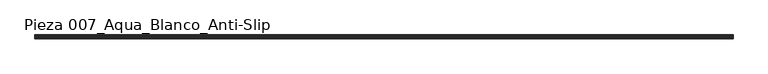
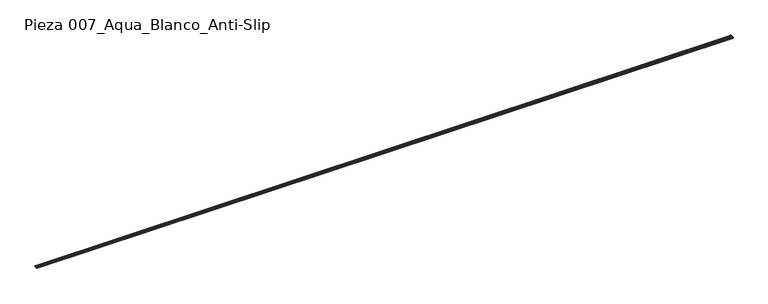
"""IFC4 building model written with IfcOpenShell, lengths in millimetres: slab geometry, ROSA GRES_007 : Pieza 007_Aqua_Blanco_Anti-Slip."""

from ifc_helpers import new_model, si_unit, point, frame, frame_2d, origin, place, context, project, spatial, polyline, circle_curve, trimmed, segment, composite_curve, outline, extrude, source, transform, mapped, element, save


def pieza_007_aqua_blanco_anti_slip_3bc438a8(model_context):
    return source(origin(), model_context, "Body", "SweptSolid", [
        extrude(outline(composite_curve([segment(trimmed(circle_curve(frame_2d((-25.9545763, 173.0767428)), 11.6464304), [point((-14.3742659, 174.3159971))], [point((-37.1820416, 176.172444))], True, "CARTESIAN"), True, "CONTINUOUS"), segment(polyline([(-37.1820416, 176.172444), (-33.8762309, 200.4746837), (-29.9345538, 200.1538709)]), True, "CONTINUOUS"), segment(trimmed(circle_curve(frame_2d((-27.3971937, 201.142641)), 2.7232081), [point((-29.9345538, 200.1538709))], [point((-24.7247274, 200.6193952))], True, "CARTESIAN"), True, "CONTINUOUS"), segment(trimmed(circle_curve(frame_2d((-20.3008643, 202.7650351)), 4.9167404), [point((-24.7247274, 200.6193952))], [point((-16.9364731, 199.1796191))], True, "CARTESIAN"), True, "CONTINUOUS"), segment(polyline([(-16.9364731, 199.1796191), (-12.7748841, 198.875801)]), True, "CONTINUOUS"), segment(trimmed(circle_curve(frame_2d((-15.1536138, 183.7870899)), 15.2750633), [point((-12.7748841, 198.875801))], [point((0.0710994, 182.547869))], False, "CARTESIAN"), True, "CONTINUOUS"), segment(polyline([(0.0710994, 182.547869), (-0.6896004, 173.202129), (-14.3742659, 174.3159971)]), True, "CONTINUOUS")], self_intersect=False)), frame((0.0, 0.0, 0.0), z_axis=(1.0, 0.0, 0.0), x_axis=(0.0, 1.0, 0.0)), (0.0, 0.0, 1.0), 20529.8565596),
        extrude(outline(composite_curve([segment(trimmed(circle_curve(frame_2d((-91.1625174, 167.3774726)), 22.5372595), [point((-71.8498608, 178.9942432))], [point((-108.342302, 181.9645582))], True, "CARTESIAN"), True, "CONTINUOUS"), segment(polyline([(-108.342302, 181.9645582), (-119.2900344, 182.8556525), (-117.4809059, 205.0820876), (-115.5338707, 204.9236084), (-115.3491545, 207.1930072), (-113.0660814, 207.0070959)]), True, "CONTINUOUS"), segment(trimmed(circle_curve(frame_2d((-109.1074243, 209.7932705)), 4.8408403), [point((-113.0660814, 207.0070959))], [point((-105.2742048, 206.836894))], True, "CARTESIAN"), True, "CONTINUOUS"), segment(trimmed(circle_curve(frame_2d((-100.9933064, 209.1504161)), 4.8660534), [point((-105.2742048, 206.836894))], [point((-97.1292049, 206.1928503))], True, "CARTESIAN"), True, "CONTINUOUS"), segment(trimmed(circle_curve(frame_2d((-92.9342908, 208.0451437)), 4.5856619), [point((-97.1292049, 206.1928503))], [point((-89.0833894, 205.555394))], True, "CARTESIAN"), True, "CONTINUOUS"), segment(trimmed(circle_curve(frame_2d((-84.8780848, 207.3839748)), 4.5856619), [point((-89.0833894, 205.555394))], [point((-81.0271834, 204.8942251))], True, "CARTESIAN"), True, "CONTINUOUS"), segment(trimmed(circle_curve(frame_2d((-76.8218788, 206.722806)), 4.5856619), [point((-81.0271834, 204.8942251))], [point((-73.3820924, 203.6902881))], True, "CARTESIAN"), True, "CONTINUOUS"), segment(polyline([(-73.3820924, 203.6902881), (-69.6579726, 203.3871621), (-69.3023399, 198.236672)]), True, "CONTINUOUS"), segment(trimmed(circle_curve(frame_2d((-57.0579989, 199.0821231)), 12.2734948), [point((-69.3023399, 198.236672))], [point((-61.867532, 187.7902205))], True, "CARTESIAN"), True, "CONTINUOUS"), segment(polyline([(-61.867532, 187.7902205), (-43.8250834, 186.3216491)]), True, "CONTINUOUS"), segment(trimmed(circle_curve(frame_2d((-43.5817022, 189.3117604)), 3.0), [point((-43.8250834, 186.3216491))], [point((-40.9402045, 187.8896178))], True, "CARTESIAN"), True, "CONTINUOUS"), segment(trimmed(circle_curve(frame_2d((-106.9597263, 233.2212806)), 80.084561), [point((-40.9402045, 187.8896178))], [point((-33.8762309, 200.4746837))], True, "CARTESIAN"), True, "CONTINUOUS"), segment(polyline([(-33.8762309, 200.4746837), (-37.1820416, 176.172444), (-71.8498608, 178.9942432)]), True, "CONTINUOUS")], self_intersect=False)), frame((0.0, 0.0, 0.0), z_axis=(1.0, 0.0, 0.0), x_axis=(0.0, 1.0, 0.0)), (0.0, 0.0, 1.0), 20529.8565596),
    ])


if __name__ == "__main__":
    model = new_model("IFC4")
    model_context = context("Model", 3, world=origin())
    ifc_project = project(units=[si_unit("LENGTHUNIT", "METRE", prefix="MILLI")], contexts=[model_context])
    site = spatial("IfcSite", under=ifc_project)
    building = spatial("IfcBuilding", under=site)
    placement = place(None, origin())
    pieza_007_aqua_blanco_anti_slip_shape = pieza_007_aqua_blanco_anti_slip_3bc438a8(model_context)
    element("IfcSlab", 1, ObjectType="ROSA GRES_007 : Pieza 007_Aqua_Blanco_Anti-Slip", at=placement, inside=building, context=model_context, shape_type="MappedRepresentation", body=[
        mapped(pieza_007_aqua_blanco_anti_slip_shape, transform((0.0, 0.0, 0.0), x_axis=(1.0, 0.0, 0.0), y_axis=(0.0, 1.0, 0.0), z_axis=(0.0, 0.0, 1.0))),
    ])
    save(model, "model.ifc")
